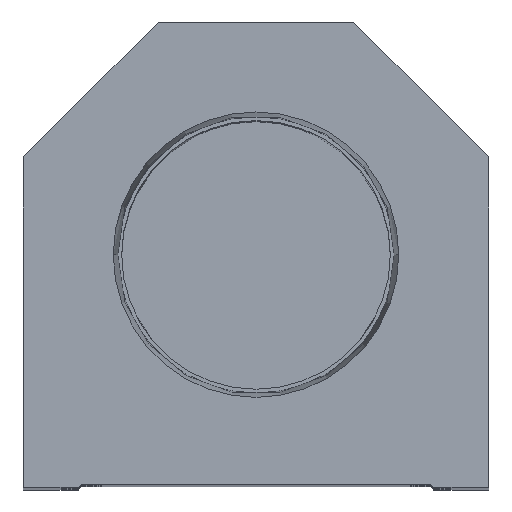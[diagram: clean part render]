
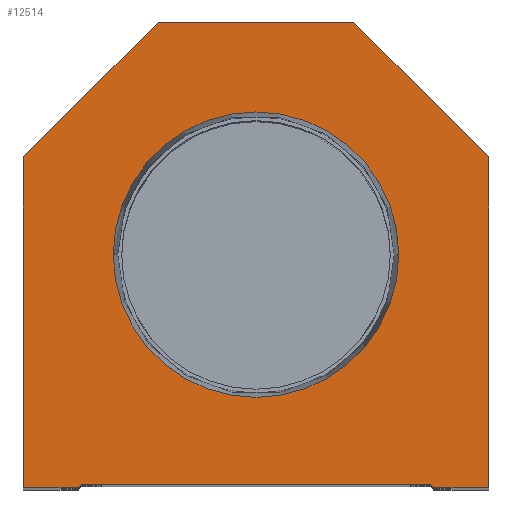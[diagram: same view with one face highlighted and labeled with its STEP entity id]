
A CAD part, top view. The second image highlights one B-rep face of the part: STEP entity #12514.
In plain terms, the highlighted planar face has unit normal (0, 0, 1).
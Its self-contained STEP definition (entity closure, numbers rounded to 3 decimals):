
#19 = DIRECTION ( 'NONE',  ( 0.707, -0.707, 0. ) ) ;
#479 = EDGE_CURVE ( 'NONE', #626, #12724, #9251, .T. ) ;
#500 = CIRCLE ( 'NONE', #13010, 23.374 ) ;
#513 = VECTOR ( 'NONE', #10511, 1000. ) ;
#626 = VERTEX_POINT ( 'NONE', #15685 ) ;
#691 = LINE ( 'NONE', #13779, #1379 ) ;
#818 = EDGE_LOOP ( 'NONE', ( #1497, #18663 ) ) ;
#981 = EDGE_CURVE ( 'NONE', #14249, #2844, #7787, .T. ) ;
#1072 = CARTESIAN_POINT ( 'NONE',  ( 29.1, 0., 0. ) ) ;
#1078 = VECTOR ( 'NONE', #13148, 1000. ) ;
#1095 = CARTESIAN_POINT ( 'NONE',  ( 16., 76.2, 0. ) ) ;
#1159 = CARTESIAN_POINT ( 'NONE',  ( 23.374, 38.1, 0. ) ) ;
#1379 = VECTOR ( 'NONE', #15393, 1000. ) ;
#1497 = ORIENTED_EDGE ( 'NONE', *, *, #2898, .F. ) ;
#1539 = CARTESIAN_POINT ( 'NONE',  ( -14.55, 14.55, 0. ) ) ;
#1656 = LINE ( 'NONE', #13216, #17806 ) ;
#1664 = CARTESIAN_POINT ( 'NONE',  ( 0., 38.1, 0. ) ) ;
#2047 = VECTOR ( 'NONE', #9018, 1000. ) ;
#2460 = VERTEX_POINT ( 'NONE', #14168 ) ;
#2844 = VERTEX_POINT ( 'NONE', #14761 ) ;
#2898 = EDGE_CURVE ( 'NONE', #12724, #626, #500, .T. ) ;
#3194 = VECTOR ( 'NONE', #4730, 1000. ) ;
#3273 = ORIENTED_EDGE ( 'NONE', *, *, #19240, .T. ) ;
#3274 = EDGE_CURVE ( 'NONE', #7461, #12482, #15744, .T. ) ;
#3766 = CARTESIAN_POINT ( 'NONE',  ( 38.1, 54.1, 0. ) ) ;
#4590 = EDGE_CURVE ( 'NONE', #12917, #2460, #6516, .T. ) ;
#4707 = ORIENTED_EDGE ( 'NONE', *, *, #11077, .T. ) ;
#4730 = DIRECTION ( 'NONE',  ( 1., 0., 0. ) ) ;
#5297 = DIRECTION ( 'NONE',  ( 0., 1., 0. ) ) ;
#5799 = AXIS2_PLACEMENT_3D ( 'NONE', #16994, #9895, #15130 ) ;
#6516 = LINE ( 'NONE', #19781, #10607 ) ;
#6717 = EDGE_CURVE ( 'NONE', #12482, #21068, #10666, .T. ) ;
#6727 = CARTESIAN_POINT ( 'NONE',  ( 38.1, 0., 0. ) ) ;
#7129 = EDGE_CURVE ( 'NONE', #21068, #16612, #691, .T. ) ;
#7416 = CARTESIAN_POINT ( 'NONE',  ( -38.1, 0., 0. ) ) ;
#7461 = VERTEX_POINT ( 'NONE', #14174 ) ;
#7592 = CARTESIAN_POINT ( 'NONE',  ( 0., 0., 0. ) ) ;
#7787 = LINE ( 'NONE', #14789, #3194 ) ;
#7939 = AXIS2_PLACEMENT_3D ( 'NONE', #7592, #11191, #17633 ) ;
#8027 = EDGE_CURVE ( 'NONE', #15658, #8942, #12826, .T. ) ;
#8088 = EDGE_LOOP ( 'NONE', ( #19574, #16113, #12036, #14885, #13100, #4707, #13166, #10267, #13117, #3273 ) ) ;
#8124 = CARTESIAN_POINT ( 'NONE',  ( -28.6, 0., 0. ) ) ;
#8175 = DIRECTION ( 'NONE',  ( 0.707, 0.707, 0. ) ) ;
#8296 = DIRECTION ( 'NONE',  ( 0., 0., 1. ) ) ;
#8559 = LINE ( 'NONE', #6727, #15211 ) ;
#8942 = VERTEX_POINT ( 'NONE', #10601 ) ;
#9018 = DIRECTION ( 'NONE',  ( -1., 0., 0. ) ) ;
#9203 = PLANE ( 'NONE',  #7939 ) ;
#9251 = CIRCLE ( 'NONE', #5799, 23.374 ) ;
#9683 = LINE ( 'NONE', #1539, #11069 ) ;
#9895 = DIRECTION ( 'NONE',  ( 0., 0., 1. ) ) ;
#10002 = EDGE_CURVE ( 'NONE', #2460, #14249, #1656, .T. ) ;
#10267 = ORIENTED_EDGE ( 'NONE', *, *, #6717, .T. ) ;
#10269 = VECTOR ( 'NONE', #12531, 1000. ) ;
#10391 = CARTESIAN_POINT ( 'NONE',  ( -28.6, 0.5, 0. ) ) ;
#10437 = EDGE_CURVE ( 'NONE', #8942, #12917, #9683, .T. ) ;
#10511 = DIRECTION ( 'NONE',  ( -0.707, 0.707, 0. ) ) ;
#10601 = CARTESIAN_POINT ( 'NONE',  ( -29.1, 0., 0. ) ) ;
#10607 = VECTOR ( 'NONE', #19669, 1000. ) ;
#10666 = LINE ( 'NONE', #1095, #2047 ) ;
#10690 = LINE ( 'NONE', #7416, #10269 ) ;
#10981 = CARTESIAN_POINT ( 'NONE',  ( 16., 76.2, 0. ) ) ;
#11069 = VECTOR ( 'NONE', #8175, 1000. ) ;
#11077 = EDGE_CURVE ( 'NONE', #2844, #7461, #8559, .T. ) ;
#11191 = DIRECTION ( 'NONE',  ( 0., 0., 1. ) ) ;
#12036 = ORIENTED_EDGE ( 'NONE', *, *, #4590, .T. ) ;
#12482 = VERTEX_POINT ( 'NONE', #10981 ) ;
#12514 = ADVANCED_FACE ( 'NONE', ( #14160, #20732 ), #9203, .T. ) ;
#12531 = DIRECTION ( 'NONE',  ( 0., -1., 0. ) ) ;
#12724 = VERTEX_POINT ( 'NONE', #1159 ) ;
#12826 = LINE ( 'NONE', #8124, #1078 ) ;
#12917 = VERTEX_POINT ( 'NONE', #10391 ) ;
#13010 = AXIS2_PLACEMENT_3D ( 'NONE', #1664, #8296, #19404 ) ;
#13100 = ORIENTED_EDGE ( 'NONE', *, *, #981, .T. ) ;
#13117 = ORIENTED_EDGE ( 'NONE', *, *, #7129, .T. ) ;
#13148 = DIRECTION ( 'NONE',  ( 1., 0., 0. ) ) ;
#13166 = ORIENTED_EDGE ( 'NONE', *, *, #3274, .T. ) ;
#13216 = CARTESIAN_POINT ( 'NONE',  ( 14.55, 14.55, 0. ) ) ;
#13779 = CARTESIAN_POINT ( 'NONE',  ( -38.1, 54.1, 0. ) ) ;
#14160 = FACE_BOUND ( 'NONE', #818, .T. ) ;
#14168 = CARTESIAN_POINT ( 'NONE',  ( 28.6, 0.5, 0. ) ) ;
#14174 = CARTESIAN_POINT ( 'NONE',  ( 38.1, 54.1, 0. ) ) ;
#14249 = VERTEX_POINT ( 'NONE', #1072 ) ;
#14761 = CARTESIAN_POINT ( 'NONE',  ( 38.1, 0., 0. ) ) ;
#14789 = CARTESIAN_POINT ( 'NONE',  ( 28.6, 0., 0. ) ) ;
#14885 = ORIENTED_EDGE ( 'NONE', *, *, #10002, .T. ) ;
#15130 = DIRECTION ( 'NONE',  ( 1., 0., 0. ) ) ;
#15211 = VECTOR ( 'NONE', #5297, 1000. ) ;
#15393 = DIRECTION ( 'NONE',  ( -0.707, -0.707, 0. ) ) ;
#15658 = VERTEX_POINT ( 'NONE', #17687 ) ;
#15685 = CARTESIAN_POINT ( 'NONE',  ( -23.374, 38.1, 0. ) ) ;
#15744 = LINE ( 'NONE', #3766, #513 ) ;
#16113 = ORIENTED_EDGE ( 'NONE', *, *, #10437, .T. ) ;
#16372 = CARTESIAN_POINT ( 'NONE',  ( -38.1, 54.1, 0. ) ) ;
#16612 = VERTEX_POINT ( 'NONE', #16372 ) ;
#16994 = CARTESIAN_POINT ( 'NONE',  ( 0., 38.1, 0. ) ) ;
#17633 = DIRECTION ( 'NONE',  ( 1., 0., 0. ) ) ;
#17687 = CARTESIAN_POINT ( 'NONE',  ( -38.1, 0., 0. ) ) ;
#17806 = VECTOR ( 'NONE', #19, 1000. ) ;
#18663 = ORIENTED_EDGE ( 'NONE', *, *, #479, .F. ) ;
#19240 = EDGE_CURVE ( 'NONE', #16612, #15658, #10690, .T. ) ;
#19376 = CARTESIAN_POINT ( 'NONE',  ( -16., 76.2, 0. ) ) ;
#19404 = DIRECTION ( 'NONE',  ( 1., 0., 0. ) ) ;
#19574 = ORIENTED_EDGE ( 'NONE', *, *, #8027, .T. ) ;
#19669 = DIRECTION ( 'NONE',  ( 1., 0., 0. ) ) ;
#19781 = CARTESIAN_POINT ( 'NONE',  ( -28.6, 0.5, 0. ) ) ;
#20732 = FACE_OUTER_BOUND ( 'NONE', #8088, .T. ) ;
#21068 = VERTEX_POINT ( 'NONE', #19376 ) ;
